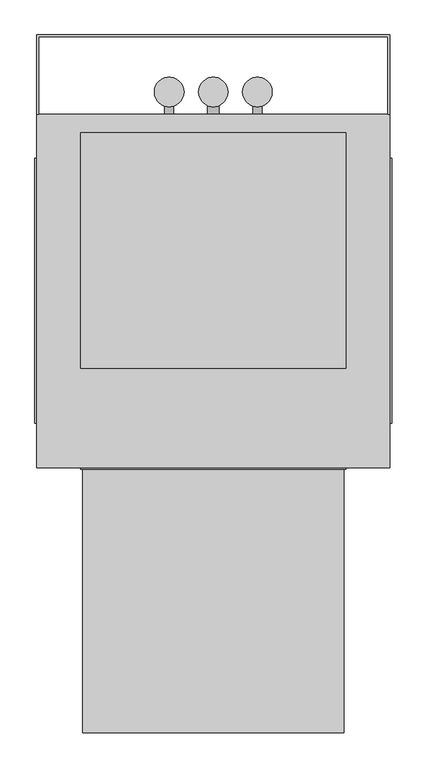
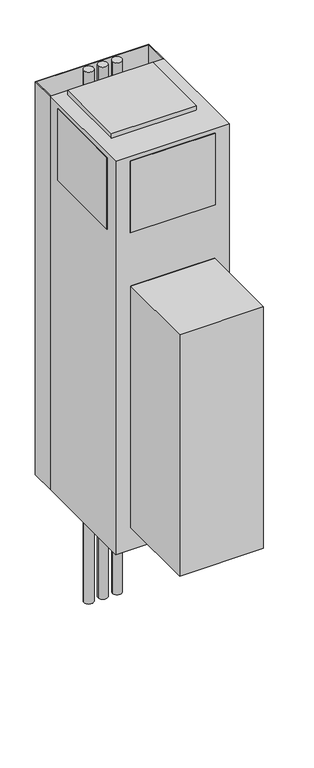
"""IFC4 building model written with IfcOpenShell, lengths in millimetres: proxy geometry, Exposed_Modular_Fan_Coil_Unit_-_42SHA_-_CARRIER_-_2-Pipe_Cool-EHeat_-_WithRisers_2022 : Size 10 - 277v/60Hz/1Ph - 4 Row 8.0kW."""

from ifc_helpers import new_model, si_unit, point, frame, frame_2d, origin, origin_with_axes, place, context, project, spatial, polyline, circle_curve, trimmed, segment, composite_curve, outline, extrude, source, transform, mapped, element, save


def mechanical_equipment_59581eee(model_context):
    return source(origin(), model_context, "Body", "SweptSolid", [
        extrude(outline(composite_curve([segment(trimmed(circle_curve(frame_2d((381.0, 282.575)), 25.4), [point((406.4, 282.575))], [point((355.6, 282.575))], False, "CARTESIAN"), True, "CONTINUOUS"), segment(trimmed(circle_curve(frame_2d((381.0, 282.575)), 25.4), [point((355.6, 282.575))], [point((406.4, 282.575))], False, "CARTESIAN"), True, "CONTINUOUS")], self_intersect=False)), frame((0.0, 0.0, -736.6), z_axis=(0.0, 0.0, 1.0), x_axis=(1.0, 0.0, 0.0)), (0.0, 0.0, 1.0), 3022.6),
        extrude(outline(composite_curve([segment(trimmed(circle_curve(frame_2d((457.2, 282.575)), 25.4), [point((482.6, 282.575))], [point((431.8, 282.575))], False, "CARTESIAN"), True, "CONTINUOUS"), segment(trimmed(circle_curve(frame_2d((457.2, 282.575)), 25.4), [point((431.8, 282.575))], [point((482.6, 282.575))], False, "CARTESIAN"), True, "CONTINUOUS")], self_intersect=False)), frame((0.0, 0.0, -736.6), z_axis=(0.0, 0.0, 1.0), x_axis=(1.0, 0.0, 0.0)), (0.0, 0.0, 1.0), 3022.6),
        extrude(outline(composite_curve([segment(trimmed(circle_curve(frame_2d((533.4, 282.575)), 25.4), [point((558.8, 282.575))], [point((508.0, 282.575))], False, "CARTESIAN"), True, "CONTINUOUS"), segment(trimmed(circle_curve(frame_2d((533.4, 282.575)), 25.4), [point((508.0, 282.575))], [point((558.8, 282.575))], False, "CARTESIAN"), True, "CONTINUOUS")], self_intersect=False)), frame((0.0, 0.0, -736.6), z_axis=(0.0, 0.0, 1.0), x_axis=(1.0, 0.0, 0.0)), (0.0, 0.0, 1.0), 3022.6),
        extrude(outline(polyline([(682.625, -368.3), (682.625, -822.325), (231.775, -822.325), (231.775, -368.3), (682.625, -368.3)])), frame((0.0, 0.0, 127.0), z_axis=(0.0, 0.0, 1.0), x_axis=(1.0, 0.0, 0.0)), (0.0, 0.0, 1.0), 1371.6),
        extrude(outline(polyline([(152.4, 381.0), (762.0, 381.0), (762.0, 244.475), (758.825, 244.475), (758.825, 377.825), (155.575, 377.825), (155.575, 244.475), (152.4, 244.475), (152.4, 381.0)])), origin_with_axes(), (0.0, 0.0, 1.0), 2235.2),
        extrude(outline(composite_curve([segment(trimmed(circle_curve(frame_2d((990.6, 533.4)), 7.9375), [point((990.6, 541.3375))], [point((990.6, 525.4625))], False, "CARTESIAN"), True, "CONTINUOUS"), segment(trimmed(circle_curve(frame_2d((990.6, 533.4)), 7.9375), [point((990.6, 525.4625))], [point((990.6, 541.3375))], False, "CARTESIAN"), True, "CONTINUOUS")], self_intersect=False)), frame((0.0, 244.475, 0.0), z_axis=(0.0, 1.0, 0.0), x_axis=(0.0, 0.0, 1.0)), (0.0, 0.0, 1.0), 25.4),
        extrude(outline(composite_curve([segment(trimmed(circle_curve(frame_2d((990.6, 381.0)), 7.9375), [point((990.6, 388.9375))], [point((990.6, 373.0625))], False, "CARTESIAN"), True, "CONTINUOUS"), segment(trimmed(circle_curve(frame_2d((990.6, 381.0)), 7.9375), [point((990.6, 373.0625))], [point((990.6, 388.9375))], False, "CARTESIAN"), True, "CONTINUOUS")], self_intersect=False)), frame((0.0, 244.475, 0.0), z_axis=(0.0, 1.0, 0.0), x_axis=(0.0, 0.0, 1.0)), (0.0, 0.0, 1.0), 25.4),
        extrude(outline(composite_curve([segment(trimmed(circle_curve(frame_2d((127.0, 457.2)), 9.525), [point((127.0, 466.725))], [point((127.0, 447.675))], False, "CARTESIAN"), True, "CONTINUOUS"), segment(trimmed(circle_curve(frame_2d((127.0, 457.2)), 9.525), [point((127.0, 447.675))], [point((127.0, 466.725))], False, "CARTESIAN"), True, "CONTINUOUS")], self_intersect=False)), frame((0.0, 244.475, 0.0), z_axis=(0.0, 1.0, 0.0), x_axis=(0.0, 0.0, 1.0)), (0.0, 0.0, 1.0), 25.4),
        extrude(outline(polyline([(682.625, -368.3), (231.775, -368.3), (231.775, -365.125), (682.625, -365.125), (682.625, -368.3)])), frame((0.0, 0.0, 127.0), z_axis=(0.0, 0.0, 1.0), x_axis=(1.0, 0.0, 0.0)), (0.0, 0.0, 1.0), 1371.6),
        extrude(outline(polyline([(765.175, 168.275), (765.175, -288.925), (762.0, -288.925), (762.0, 168.275), (765.175, 168.275)])), frame((0.0, 0.0, 1803.4), z_axis=(0.0, 0.0, 1.0), x_axis=(1.0, 0.0, 0.0)), (0.0, 0.0, 1.0), 406.4),
        extrude(outline(polyline([(149.225, -288.925), (149.225, 168.275), (152.4, 168.275), (152.4, -288.925), (149.225, -288.925)])), frame((0.0, 0.0, 1803.4), z_axis=(0.0, 0.0, 1.0), x_axis=(1.0, 0.0, 0.0)), (0.0, 0.0, 1.0), 406.4),
        extrude(outline(polyline([(685.8, -368.3), (228.6, -368.3), (228.6, -365.125), (685.8, -365.125), (685.8, -368.3)])), frame((0.0, 0.0, 1803.4), z_axis=(0.0, 0.0, 1.0), x_axis=(1.0, 0.0, 0.0)), (0.0, 0.0, 1.0), 406.4),
        extrude(outline(polyline([(685.8, 212.725), (685.8, -193.675), (228.6, -193.675), (228.6, 212.725), (685.8, 212.725)])), frame((0.0, 0.0, 2235.2), z_axis=(0.0, 0.0, 1.0), x_axis=(1.0, 0.0, 0.0)), (0.0, 0.0, 1.0), 25.4),
        extrude(outline(polyline([(762.0, 244.475), (762.0, -365.125), (152.4, -365.125), (152.4, 244.475), (762.0, 244.475)])), origin_with_axes(), (0.0, 0.0, 1.0), 2235.2),
    ])


if __name__ == "__main__":
    model = new_model("IFC4")
    model_context = context("Model", 3, world=origin())
    ifc_project = project(units=[si_unit("LENGTHUNIT", "METRE", prefix="MILLI")], contexts=[model_context])
    site = spatial("IfcSite", under=ifc_project)
    building = spatial("IfcBuilding", under=site)
    placement = place(None, origin())
    mechanical_equipment_shape = mechanical_equipment_59581eee(model_context)
    element("IfcBuildingElementProxy", 1, Name="Exposed_Modular_Fan_Coil_Unit_-_42SHA_-_CARRIER_-_2-Pipe_Cool-EHeat_-_WithRisers_2022 : Size 10 - 277v/60Hz/1Ph - 4 Row 8.0kW", ObjectType="Exposed_Modular_Fan_Coil_Unit_-_42SHA_-_CARRIER_-_2-Pipe_Cool-EHeat_-_WithRisers_2022 : Size 10 - 277v/60Hz/1Ph - 4 Row 8.0kW", at=placement, inside=building, context=model_context, shape_type="MappedRepresentation", body=[
        mapped(mechanical_equipment_shape, transform((0.0, 0.0, 0.0), x_axis=(1.0, 0.0, 0.0), y_axis=(0.0, 1.0, 0.0), z_axis=(0.0, 0.0, 1.0))),
    ])
    save(model, "model.ifc")
